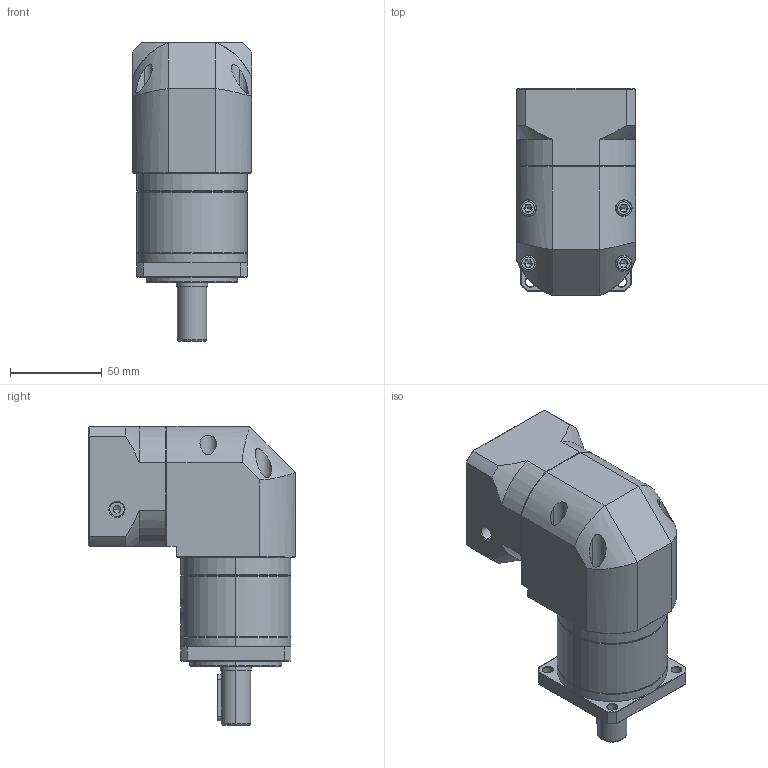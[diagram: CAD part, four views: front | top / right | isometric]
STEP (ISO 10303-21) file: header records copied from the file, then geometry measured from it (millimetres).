
FILE_DESCRIPTION (( 'STEP AP214' ), '1' );
FILE_NAME ('ZFR060-D16-L1-P2-14-60-75-M6.step', '2023-08-17T03:34:00', ( '' ), ( '' ), 'SwSTEP 2.0', 'SolidWorks 2016', '' );
FILE_SCHEMA (( 'AUTOMOTIVE_DESIGN' ));
Length unit declared in the file: millimetre
Products named in the file (1): ZFR060-D16-L1-P2-14-60-75-M6
Bounding box: 65 x 112.7 x 162.5 mm (x, y, z)
Volume: 552435.1 mm3; surface area: 80333.3 mm2
Topology: 5 solids, 6 shells, 1922 faces, 5153 edges, 3328 vertices
Faces by surface type: plane 847, cylinder 407, bspline 354, cone 290, torus 24
Entity records: 106626 total; most frequent: CARTESIAN_POINT 41558, ORIENTED_EDGE 10262, DIRECTION 7684, EDGE_CURVE 5131, VERTEX_POINT 3328, VECTOR 2614, LINE 2614, AXIS2_PLACEMENT_3D 2535
